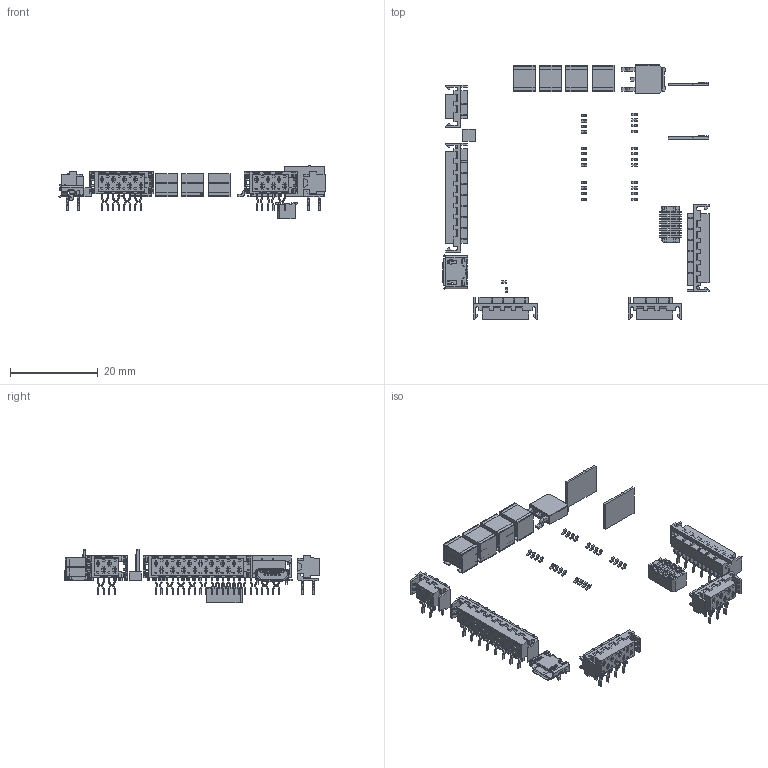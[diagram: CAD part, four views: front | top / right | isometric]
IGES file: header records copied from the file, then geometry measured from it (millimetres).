
Start section: SolidWorks IGES file using analytic representation for surfaces
Global section: file name: C:\Users\abolet\Desktop\3Ds\i038-01H1.IGS; native system: SolidWorks 2014; preprocessor: SolidWorks 2014; author: abolet; date: 151105.175953; units: millimetre
Bounding box: 60.69 x 58.06 x 12.25 mm (x, y, z)
Volume: 2117.8 mm3; surface area: 5853.2 mm2
Topology: 76 solids, 76 shells, 6225 faces, 19565 edges, 14275 vertices
Faces by surface type: plane 4473, revolution 1231, bspline 521
